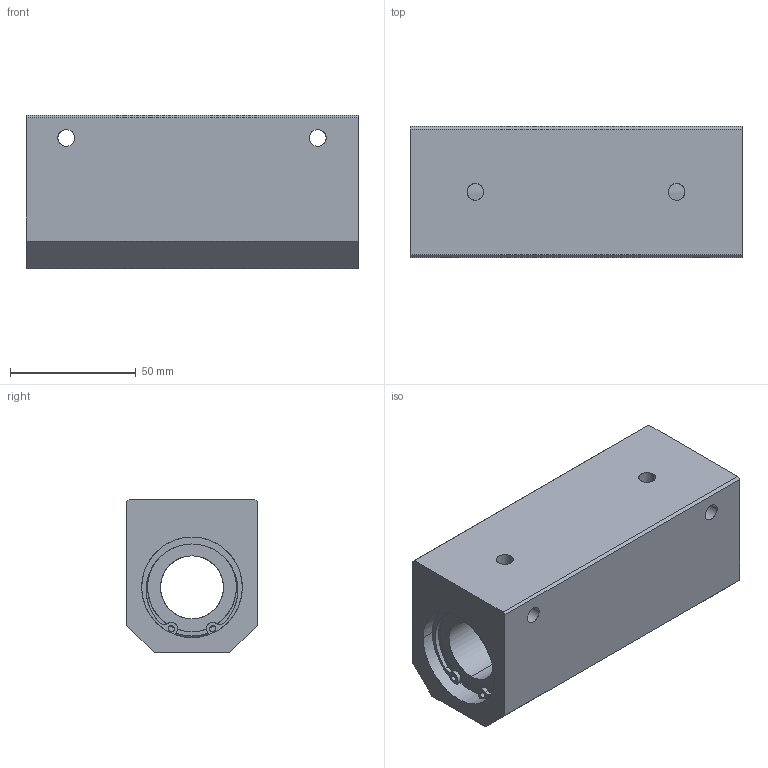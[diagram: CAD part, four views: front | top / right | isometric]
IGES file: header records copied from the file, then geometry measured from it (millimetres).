
Global section: file name: No Iges File Name specified; native system: AutoDesk Inventor R11.0; preprocessor: AutoDesk Inventor Iges Exporter R11.0; author: No Author specified; organization: No Organization specified; date: 20111024.132923; units: millimetre
Bounding box: 132 x 52 x 61 mm (x, y, z)
Surface area: 52614.2 mm2 (no closed solid volume)
Topology: 0 solids, 0 shells, 122 faces, 960 edges, 960 vertices
Faces by surface type: bspline 122
